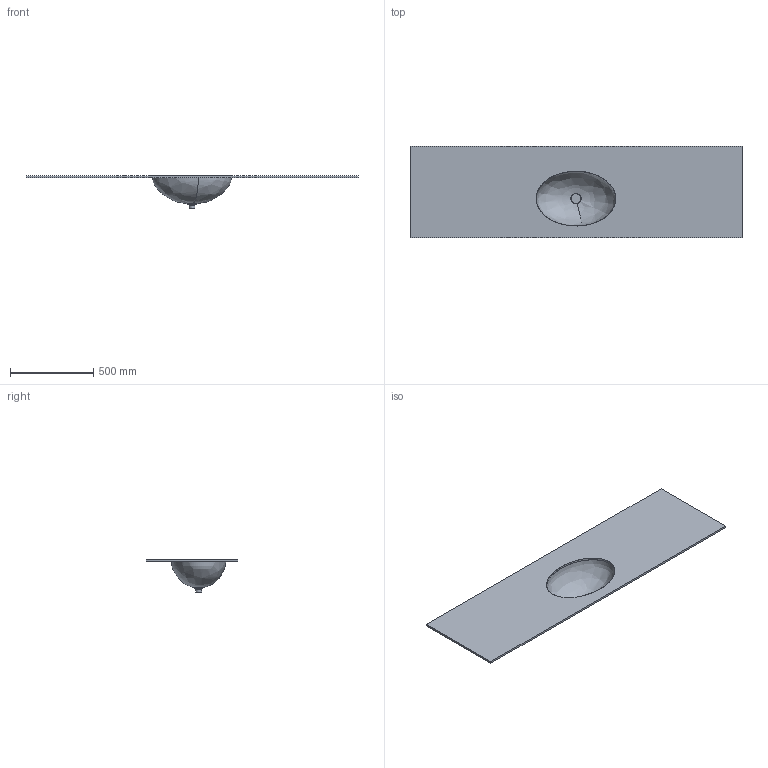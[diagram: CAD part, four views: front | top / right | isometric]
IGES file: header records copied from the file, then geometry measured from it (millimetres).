
Start section:  Autodesk Design for Windows version 2010 IGES version 5.3  Autodesk Design for Windows version 2010 IGES version 5.3
Global section: file name: D:\Desktop\GIOVANNI\SCHEDE PRODOTTO\PIANI LAVABO\ELIPSE\3D\MOMA DESIGN_PIANI LAVABO_ELIPSE MODULE.igs; native system: Rhinoceros ( Jan 17 2018 ); preprocessor: Trout Lake IGES 012 Jan 17 2018; date: 230606.115348; units: millimetre
Bounding box: 2000 x 550 x 196.97 mm (x, y, z)
Surface area: 2266295.6 mm2 (no closed solid volume)
Topology: 0 solids, 0 shells, 39 faces, 197 edges, 190 vertices
Faces by surface type: bspline 39
